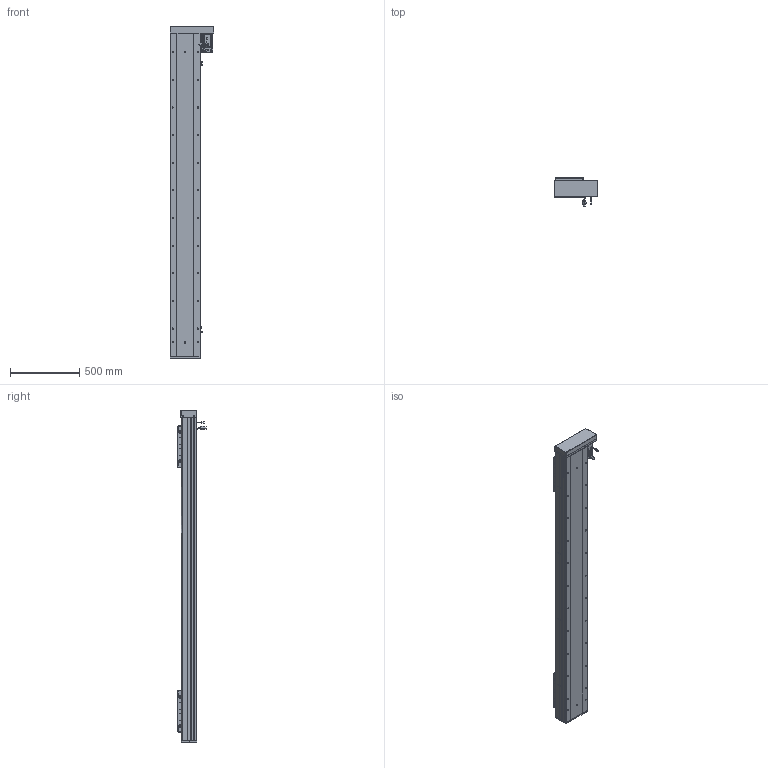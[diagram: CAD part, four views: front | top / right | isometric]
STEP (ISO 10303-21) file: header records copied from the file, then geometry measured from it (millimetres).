
FILE_DESCRIPTION (( 'STEP AP203' ), '1' );
FILE_NAME ('RY220F-L2525-800-RK-邧嶺.SLDASM_1900.step', '2022-08-06T08:19:59', ( '' ), ( '' ), 'SwSTEP 2.0', 'SolidWorks 2016', '' );
FILE_SCHEMA (( 'CONFIG_CONTROL_DESIGN' ));
Length unit declared in the file: millimetre
Products named in the file (15): 覜茼ん672; RY220F-672覜茼んえ; 怢湛750W_ECMA-CX0807ES; RY220F臏賑釱25-32佪裝; RY220F-蛌殏奻裔啣-800_1900; 滅袉蝶18-24; RY220F-祥凄詩湍-蛌殏-800_1900; 侐源滅袉蝶; RY220F-詩湍揤踡輸; RY220F-滅鳥奻裔; RY220酘衵殏萇儂欶; RY220F蛌殏菁釱-800-邧嶺_1900; RY220F-L2525-800-RK-邧嶺.SLDASM_1900; RY220F綴裔啣; RY220左右折电机安装板
Assembly tree (24 placements, depth 2):
  RY220F-L2525-800-RK-邧嶺.SLDASM_1900
    RY220F蛌殏菁釱-800-邧嶺_1900
    RY220F-蛌殏奻裔啣-800_1900  x2
    怢湛750W_ECMA-CX0807ES
    RY220F臏賑釱25-32佪裝  x2
    RY220F-滅鳥奻裔  x2
    滅袉蝶18-24  x3
    RY220F綴裔啣
    RY220F-祥凄詩湍-蛌殏-800_1900
    RY220F-詩湍揤踡輸  x2
    覜茼ん672  x3
    RY220F-672覜茼んえ  x2
    RY220左右折电机安装板
    RY220酘衵殏萇儂欶
    侐源滅袉蝶  x2
Bounding box: 317.5 x 205.27 x 2403 mm (x, y, z)
Volume: 20569437.2 mm3; surface area: 5482429.7 mm2
Topology: 25 solids, 25 shells, 2892 faces, 7848 edges, 4828 vertices
Faces by surface type: cylinder 1318, plane 1044, cone 459, bspline 45, sphere 16, torus 10
Entity records: 72088 total; most frequent: CARTESIAN_POINT 19201, ORIENTED_EDGE 10638, DIRECTION 10484, EDGE_CURVE 5319, AXIS2_PLACEMENT_3D 3762, VERTEX_POINT 3444, VECTOR 2960, LINE 2960
